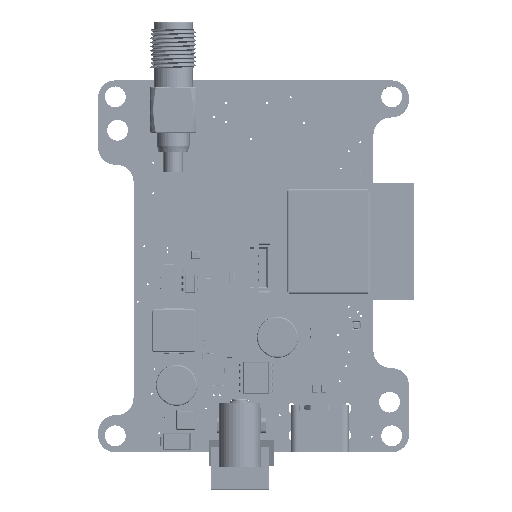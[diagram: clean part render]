
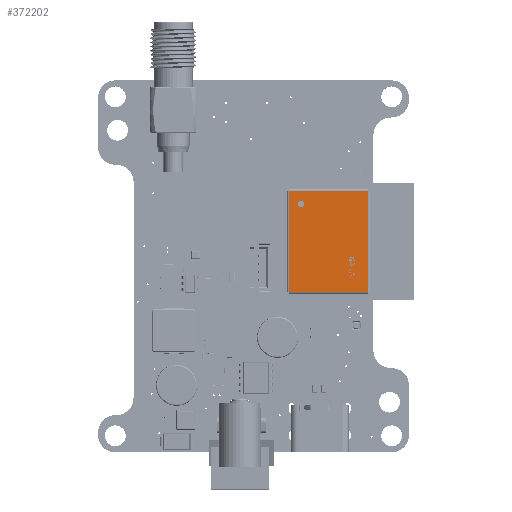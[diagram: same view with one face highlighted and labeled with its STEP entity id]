
A CAD part, top view. The second image highlights one B-rep face of the part: STEP entity #372202.
In plain terms, the highlighted planar face has unit normal (0, 0, 1).
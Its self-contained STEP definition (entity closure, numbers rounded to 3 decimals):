
#349399=CARTESIAN_POINT('NONE',(7.75,2.98,3.2));
#350412=VECTOR('NONE',#351937,1000.);
#351280 = VERTEX_POINT('NONE',#356411) ;
#351937=DIRECTION('NONE',(0.,1.,0.));
#352655 = EDGE_CURVE('NONE',#357201,#364673,#368775,.T.) ;
#352981=DIRECTION('NONE',(1.,0.,0.));
#353176=CIRCLE('NONE',#356807,0.5);
#353391=DIRECTION('NONE',(0.,0.,1.));
#354573 = EDGE_CURVE('NONE',#371511,#351280,#359724,.T.) ;
#354768 = LINE('NONE',#369603,#366562) ;
#355530 = FACE_BOUND('NONE',#366028,.T.) ;
#356176=CIRCLE('NONE',#357937,0.5);
#356355=CARTESIAN_POINT('NONE',(-7.75,-9.19,3.2));
#356411=CARTESIAN_POINT('NONE',(7.75,-9.19,3.2));
#356807=AXIS2_PLACEMENT_3D('NONE',#360165,#360466,#369086);
#356920 = VERTEX_POINT('NONE',#370704) ;
#357032 = ORIENTED_EDGE('NONE',*,*,#364043,.F.) ;
#357201 = VERTEX_POINT('NONE',#375395) ;
#357212 = PLANE('NONE',#358188) ;
#357479=DIRECTION('NONE',(1.,0.,0.));
#357627=DIRECTION('NONE',(-1.,0.,0.));
#357937=AXIS2_PLACEMENT_3D('NONE',#358931,#369797,#352981);
#358188=AXIS2_PLACEMENT_3D('NONE',#368359,#353391,#359459);
#358430=CARTESIAN_POINT('NONE',(-5.218,-7.302,3.2));
#358931=CARTESIAN_POINT('NONE',(-5.718,-7.302,3.2));
#359316 = ORIENTED_EDGE('NONE',*,*,#352655,.T.) ;
#359459=DIRECTION('NONE',(1.,0.,0.));
#359688 = EDGE_CURVE('NONE',#351280,#357201,#360698,.T.) ;
#359724 = LINE('NONE',#365956,#366060) ;
#359759 = VERTEX_POINT('NONE',#358430) ;
#360165=CARTESIAN_POINT('NONE',(-5.718,-7.302,3.2));
#360466=DIRECTION('NONE',(0.,0.,1.));
#360698 = LINE('NONE',#375707,#350412) ;
#361832 = ORIENTED_EDGE('NONE',*,*,#375441,.F.) ;
#364043 = EDGE_CURVE('NONE',#356920,#359759,#353176,.T.) ;
#364673 = VERTEX_POINT('NONE',#372096) ;
#364932 = ORIENTED_EDGE('NONE',*,*,#354573,.T.) ;
#365956=CARTESIAN_POINT('NONE',(-7.75,-9.19,3.2));
#366028 = EDGE_LOOP('NONE',(#361832,#357032)) ;
#366060=VECTOR('NONE',#357479,1000.);
#366562=VECTOR('NONE',#375619,1000.);
#366876 = ORIENTED_EDGE('NONE',*,*,#359688,.T.) ;
#368233 = FACE_OUTER_BOUND('NONE',#369233,.T.) ;
#368359=CARTESIAN_POINT('NONE',(0.,0.,3.2));
#368775 = LINE('NONE',#349399,#375413) ;
#368846 = EDGE_CURVE('NONE',#364673,#371511,#354768,.T.) ;
#369086=DIRECTION('NONE',(1.,0.,0.));
#369233 = EDGE_LOOP('NONE',(#366876,#359316,#374251,#364932)) ;
#369603=CARTESIAN_POINT('NONE',(-7.75,3.08,3.2));
#369797=DIRECTION('NONE',(0.,0.,1.));
#370704=CARTESIAN_POINT('NONE',(-6.218,-7.302,3.2));
#371511 = VERTEX_POINT('NONE',#356355) ;
#372096=CARTESIAN_POINT('NONE',(-7.75,2.98,3.2));
#372202 = ADVANCED_FACE('NONE',(#355530,#368233),#357212,.T.) ;
#374251 = ORIENTED_EDGE('NONE',*,*,#368846,.T.) ;
#375395=CARTESIAN_POINT('NONE',(7.75,2.98,3.2));
#375413=VECTOR('NONE',#357627,1000.);
#375441 = EDGE_CURVE('NONE',#359759,#356920,#356176,.T.) ;
#375619=DIRECTION('NONE',(0.,-1.,0.));
#375707=CARTESIAN_POINT('NONE',(7.75,-9.29,3.2));
